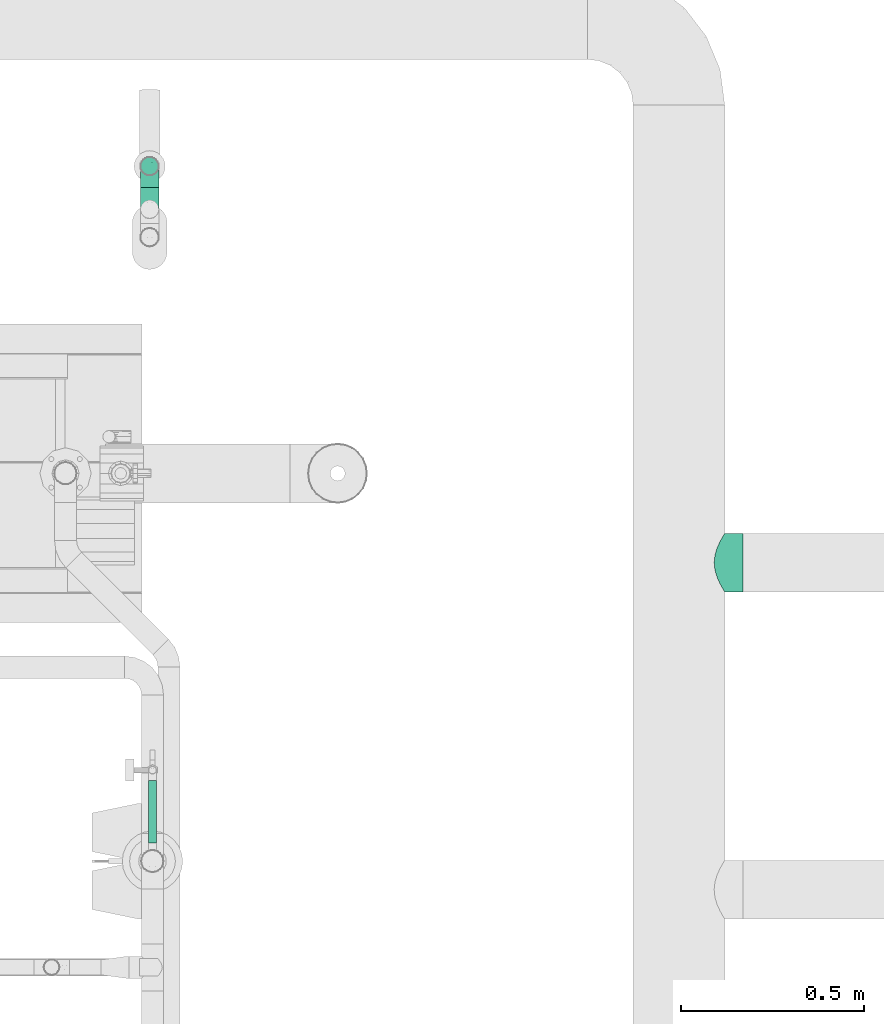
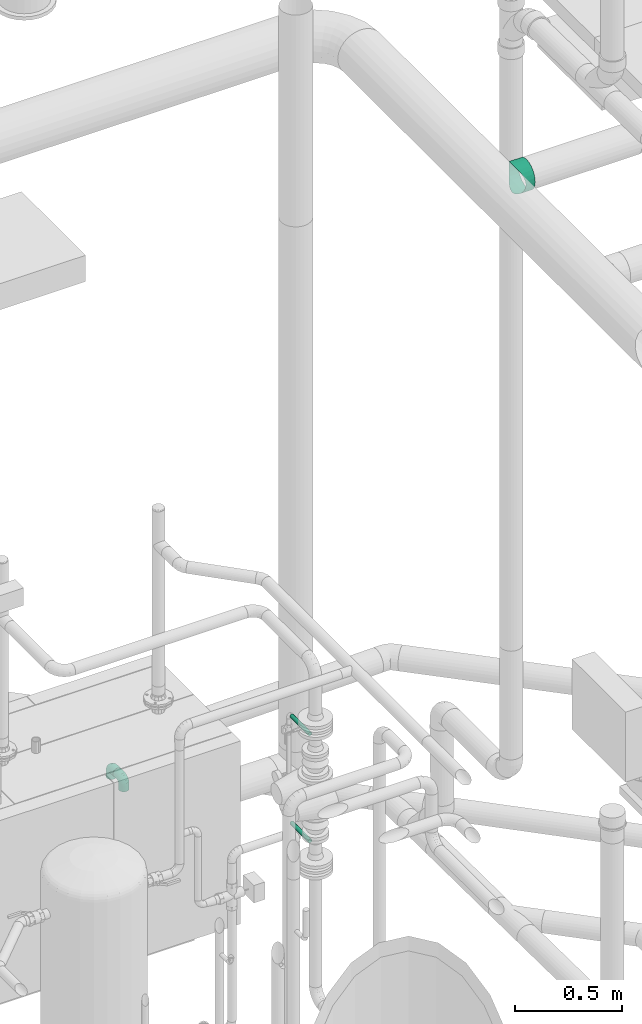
# One storey, part 119 of 374: 3 flow segments, 2 flow fittings.
"""IFC2X3 building model written with IfcOpenShell, lengths in metres."""

from ifc_helpers import new_model, si_unit, direction, origin, place, context, subcontext, project, spatial, open_shell, surface_model, source, transform, mapped, element, save


model = new_model("IFC2X3")

# Units and contexts
model_context = context("Model", 3, precision=1e-05, world=origin(), true_north=direction((-0.4480736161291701, 0.8939966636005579)))
body_context = subcontext(model_context, "Body", "Model", "MODEL_VIEW")
ifc_project = project(units=[si_unit("LENGTHUNIT", "METRE"), si_unit("AREAUNIT", "SQUARE_METRE"), si_unit("VOLUMEUNIT", "CUBIC_METRE"), si_unit("PLANEANGLEUNIT", "RADIAN"), si_unit("THERMODYNAMICTEMPERATUREUNIT", "KELVIN"), si_unit("MASSUNIT", "GRAM", prefix="KILO"), si_unit("TIMEUNIT", "SECOND")], contexts=[model_context])

# Site, building, storey
site_placement = place(None, origin())
site = spatial("IfcSite", under=ifc_project, at=site_placement, Name="Site 1", CompositionType="ELEMENT")
building_placement = place(site_placement, origin())
building = spatial("IfcBuilding", under=site, at=building_placement, Name="Undefined", CompositionType="ELEMENT")
storey_placement = place(building_placement, origin())
storey = spatial("IfcBuildingStorey", under=building, at=storey_placement, Name="Rez de chauss\x8ee", CompositionType="ELEMENT", Elevation=0.0)

# Flow segment
shared_shape_1 = source(origin(), body_context, "Body", "SurfaceModel", [
    surface_model("IfcFaceBasedSurfaceModel", [(0.001726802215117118, 0.020884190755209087, 0.0), (0.0, 0.0, 0.0), (0.051726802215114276, 8.8817842e-16, 0.0), (0.051726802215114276, 0.020884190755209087, 0.0), (-0.0048460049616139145, -0.02017257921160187, -0.005405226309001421), (0.051726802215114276, -0.02017257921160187, -0.005405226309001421), (-0.011805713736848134, -0.0382588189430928, -0.015847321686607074), (0.051726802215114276, -0.0382588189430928, -0.015847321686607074), (-0.019229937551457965, -0.05302617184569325, -0.0306146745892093), (0.051726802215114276, -0.05302617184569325, -0.0306146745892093), (-0.025019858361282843, -0.06346826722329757, -0.04870091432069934), (0.051726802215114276, -0.06346826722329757, -0.04870091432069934), (-0.027226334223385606, -0.06887349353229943, -0.06887349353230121), (0.051726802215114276, -0.06887349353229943, -0.06887349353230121), (-0.025019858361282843, -0.06887349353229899, -0.08975768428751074), (0.051726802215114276, -0.06887349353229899, -0.08975768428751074), (-0.019229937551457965, -0.06346826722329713, -0.10993026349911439), (0.051726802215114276, -0.06346826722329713, -0.10993026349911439), (-0.011805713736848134, -0.05302617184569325, -0.12801650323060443), (0.051726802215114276, -0.05302617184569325, -0.12801650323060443), (-0.0048460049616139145, -0.038258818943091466, -0.14278385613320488), (0.051726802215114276, -0.038258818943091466, -0.14278385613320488), (0.0, -0.020172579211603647, -0.15322595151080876), (0.051726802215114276, -0.020172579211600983, -0.15322595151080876), (0.001726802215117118, 2.220446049e-15, -0.15863117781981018), (0.051726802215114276, 2.220446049e-15, -0.15863117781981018), (0.0, 0.020884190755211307, -0.15863117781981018), (0.051726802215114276, 0.020884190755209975, -0.15863117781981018), (-0.0048460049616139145, 0.04105676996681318, -0.15322595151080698), (0.051726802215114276, 0.04105676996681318, -0.15322595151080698), (-0.011805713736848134, 0.05914300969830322, -0.1427838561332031), (0.051726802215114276, 0.05914300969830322, -0.1427838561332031), (-0.019229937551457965, 0.07391036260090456, -0.12801650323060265), (0.051726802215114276, 0.07391036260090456, -0.12801650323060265), (-0.025019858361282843, 0.08435245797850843, -0.10993026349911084), (0.051726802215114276, 0.08435245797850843, -0.10993026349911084), (-0.027226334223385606, 0.08975768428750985, -0.08975768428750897), (0.051726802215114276, 0.08975768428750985, -0.08975768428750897), (-0.025019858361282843, 0.08975768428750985, -0.06887349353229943), (0.051726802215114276, 0.08975768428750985, -0.06887349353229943), (-0.019229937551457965, 0.08435245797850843, -0.048700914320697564), (0.051726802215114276, 0.08435245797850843, -0.048700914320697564), (-0.011805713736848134, 0.07391036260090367, -0.030614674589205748), (0.051726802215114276, 0.07391036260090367, -0.030614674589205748), (-0.0048460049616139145, 0.05914300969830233, -0.01584732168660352), (0.051726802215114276, 0.05914300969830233, -0.01584732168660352), (0.0, 0.04105676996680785, -0.005405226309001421), (0.051726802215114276, 0.04105676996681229, -0.005405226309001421)], [open_shell([[[0, 1, 2, 3]], [[1, 4, 5, 2]], [[4, 6, 7, 5]], [[6, 8, 9, 7]], [[8, 10, 11, 9]], [[10, 12, 13, 11]], [[12, 14, 15, 13]], [[14, 16, 17, 15]], [[16, 18, 19, 17]], [[18, 20, 21, 19]], [[20, 22, 23, 21]], [[22, 24, 25, 23]], [[24, 26, 27, 25]], [[26, 28, 29, 27]], [[28, 30, 31, 29]], [[30, 32, 33, 31]], [[32, 34, 35, 33]], [[34, 36, 37, 35]], [[36, 38, 39, 37]], [[38, 40, 41, 39]], [[40, 42, 43, 41]], [[42, 44, 45, 43]], [[44, 46, 47, 45]], [[46, 0, 3, 47]]])]),
])
flow_segment_1_placement = place(storey_placement, origin())
element("IfcFlowSegment", 1, at=flow_segment_1_placement, inside=storey, Name="Piquage équerre circulaire", ObjectType="Piquage équerre circulaire", context=body_context, shape_type="MappedRepresentation", body=[
    mapped(shared_shape_1, transform((56.559324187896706, 12.735225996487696, 3.779294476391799), x_axis=(1.0, 0.0, 0.0), y_axis=(0.0, -0.1305261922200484, 0.9914448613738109), z_axis=(0.0, -0.9914448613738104, -0.13052619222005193))),
])

# Flow fittings
shared_shape_2 = source(origin(), body_context, "Body", "SurfaceModel", [
    surface_model("IfcFaceBasedSurfaceModel", [(0.0, 0.006526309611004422, 0.0), (0.0, 0.0, 0.0), (0.03350000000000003, 0.0, 7.105427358e-15), (0.03350000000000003, 0.006526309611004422, 0.0), (0.0, -0.006303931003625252, -0.0016891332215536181), (0.03350000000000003, -0.006303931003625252, -0.0016891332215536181), (0.0, -0.011955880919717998, -0.004952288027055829), (0.03350000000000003, -0.011955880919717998, -0.004952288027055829), (0.0, -0.016570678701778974, -0.009567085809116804), (0.03350000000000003, -0.016570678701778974, -0.009567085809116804), (0.0, -0.019833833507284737, -0.015219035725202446), (0.03350000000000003, -0.019833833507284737, -0.015219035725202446), (0.0, -0.021522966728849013, -0.02152296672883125), (0.03350000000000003, -0.021522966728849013, -0.02152296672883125), (0.0, -0.021522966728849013, -0.028049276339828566), (0.03350000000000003, -0.021522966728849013, -0.028049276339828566), (0.0, -0.019833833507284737, -0.034353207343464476), (0.03350000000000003, -0.019833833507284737, -0.034353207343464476), (0.0, -0.01657067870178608, -0.04000515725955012), (0.03350000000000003, -0.01657067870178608, -0.04000515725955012), (0.0, -0.011955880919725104, -0.0446199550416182), (0.03350000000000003, -0.011955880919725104, -0.0446199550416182), (0.0, -0.00630393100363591, -0.04788310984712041), (0.03350000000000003, -0.00630393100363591, -0.04788310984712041), (0.0, -1.0658141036e-14, -0.04957224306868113), (0.03350000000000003, -1.0658141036e-14, -0.04957224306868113), (0.0, 0.006526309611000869, -0.04957224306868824), (0.03350000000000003, 0.0065263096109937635, -0.04957224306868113), (0.0, 0.012830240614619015, -0.047883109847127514), (0.03350000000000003, 0.012830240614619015, -0.047883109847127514), (0.0, 0.018482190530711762, -0.0446199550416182), (0.03350000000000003, 0.018482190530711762, -0.0446199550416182), (0.0, 0.023096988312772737, -0.04000515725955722), (0.03350000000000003, 0.023096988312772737, -0.04000515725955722), (0.0, 0.026360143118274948, -0.03435320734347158), (0.03350000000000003, 0.026360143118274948, -0.03435320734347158), (0.0, 0.028049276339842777, -0.028049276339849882), (0.03350000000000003, 0.028049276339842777, -0.028049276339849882), (0.0, 0.028049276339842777, -0.02152296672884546), (0.03350000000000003, 0.028049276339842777, -0.02152296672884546), (0.0, 0.026360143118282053, -0.015219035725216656), (0.03350000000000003, 0.026360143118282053, -0.015219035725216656), (0.0, 0.023096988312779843, -0.00956708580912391), (0.03350000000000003, 0.023096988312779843, -0.00956708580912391), (0.0, 0.018482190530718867, -0.004952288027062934), (0.03350000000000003, 0.018482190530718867, -0.004952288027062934), (0.0, 0.01283024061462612, -0.0016891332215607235), (0.03350000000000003, 0.01283024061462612, -0.0016891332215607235), (0.046220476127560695, -0.019862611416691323, -0.02826786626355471), (0.046440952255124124, -0.019833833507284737, -0.02174534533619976), (0.05807407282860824, -0.014994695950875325, -0.028908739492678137), (0.058499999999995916, -0.014881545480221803, -0.02239732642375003), (0.06825298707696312, -0.007250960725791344, -0.029928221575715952), (0.0688553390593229, -0.007003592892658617, -0.023434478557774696), (0.07606354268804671, 0.0028408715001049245, -0.03125683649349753), (0.07680127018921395, 0.0032631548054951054, -0.024786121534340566), (0.08097346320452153, 0.014593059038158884, -0.032804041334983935), (0.08179629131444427, 0.015219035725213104, -0.026360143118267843), (0.08264814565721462, 0.02720470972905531, -0.034464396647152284), (0.08349999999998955, 0.028049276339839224, -0.028049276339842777), (0.04557407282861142, -0.01825785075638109, -0.03456068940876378), (0.056825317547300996, -0.013637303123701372, -0.03516899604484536), (0.06648698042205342, -0.006287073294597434, -0.036136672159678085), (0.07390063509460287, 0.003291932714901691, -0.03739777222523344), (0.07856105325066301, 0.014446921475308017, -0.0388663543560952), (0.0801506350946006, 0.02641769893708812, -0.04044233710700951), (0.04454579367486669, -0.015128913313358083, -0.040194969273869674), (0.05483883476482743, -0.010901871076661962, -0.040751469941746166), (0.06367766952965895, -0.004177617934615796, -0.04163673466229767), (0.07045994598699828, 0.004585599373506, -0.042790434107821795), (0.07472346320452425, 0.014790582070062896, -0.04413394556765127), (0.07617766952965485, 0.02574187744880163, -0.04557571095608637), (0.04320571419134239, -0.010689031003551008, -0.04478673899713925), (0.052249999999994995, -0.006974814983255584, -0.04527572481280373), (0.06001650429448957, -0.0010663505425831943, -0.0460535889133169), (0.0659759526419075, 0.0066337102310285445, -0.04706732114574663), (0.0697222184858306, 0.015600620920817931, -0.04824783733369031), (0.07099999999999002, 0.025223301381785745, -0.04951468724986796), (0.041645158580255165, -0.005240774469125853, -0.0480230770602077), (0.04923523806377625, -0.0021237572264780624, -0.04843344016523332), (0.05575298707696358, 0.0028347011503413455, -0.04908623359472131), (0.06075423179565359, 0.009296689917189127, -0.04993697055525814), (0.06389814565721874, 0.016821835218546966, -0.05092767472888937), (0.06497047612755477, 0.024897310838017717, -0.05199083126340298), (0.03997047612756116, 0.0008445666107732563, -0.049683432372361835), (0.04599999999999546, 0.0033207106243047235, -0.05000942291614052), (0.05117766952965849, 0.007259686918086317, -0.0505279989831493), (0.055150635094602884, 0.012393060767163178, -0.05120382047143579), (0.057648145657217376, 0.0183710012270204, -0.05199083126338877), (0.058499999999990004, 0.02478612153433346, -0.05283539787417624), (0.038295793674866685, 0.007152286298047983, -0.04965465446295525), (0.04276476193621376, 0.008987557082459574, -0.049896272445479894), (0.04660235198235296, 0.0119070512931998, -0.05028063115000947), (0.04954703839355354, 0.01571181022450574, -0.050781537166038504), (0.051398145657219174, 0.0201425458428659, -0.051364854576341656), (0.05202952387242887, 0.02489731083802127, -0.051990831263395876), (0.03673523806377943, 0.013252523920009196, -0.04793870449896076), (0.039749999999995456, 0.014490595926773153, -0.048101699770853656), (0.04233883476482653, 0.01646008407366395, -0.04836098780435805), (0.04432531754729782, 0.01902677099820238, -0.04869889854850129), (0.04557407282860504, 0.02201574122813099, -0.049092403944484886), (0.04599999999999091, 0.025223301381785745, -0.04951468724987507), (0.03539515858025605, 0.01872955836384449, -0.04465252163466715), (0.03716116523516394, 0.019454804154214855, -0.04474800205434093), (0.03867766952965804, 0.020608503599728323, -0.044899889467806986), (0.039841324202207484, 0.02211203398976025, -0.045097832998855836), (0.04057282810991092, 0.02386293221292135, -0.04532834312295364), (0.04082233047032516, 0.02574187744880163, -0.04557571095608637), (0.03436687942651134, 0.023210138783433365, -0.040020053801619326), (0.03517468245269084, 0.02354187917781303, -0.04006372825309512), (0.03586835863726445, 0.02406960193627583, -0.04013320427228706), (0.03640063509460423, 0.024757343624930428, -0.04022374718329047), (0.03673523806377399, 0.0255582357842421, -0.04032918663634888), (0.03684936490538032, 0.02641769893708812, -0.04044233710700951), (0.03372047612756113, 0.026388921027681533, -0.03435699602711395), (0.033925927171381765, 0.026473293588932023, -0.034368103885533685), (0.034102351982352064, 0.026607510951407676, -0.03438577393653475), (0.03423772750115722, 0.02678242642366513, -0.03440880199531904), (0.034322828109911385, 0.026986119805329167, -0.0344356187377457), (0.03435185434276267, 0.02720470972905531, -0.034464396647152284), (0.03372047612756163, 0.028078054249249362, -0.02152675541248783), (0.03392592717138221, 0.028162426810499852, -0.021537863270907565), (0.03410235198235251, 0.028296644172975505, -0.02155553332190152), (0.034237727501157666, 0.028471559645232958, -0.021578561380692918), (0.03432282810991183, 0.028675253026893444, -0.02160537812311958), (0.03435185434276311, 0.028893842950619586, -0.021634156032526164), (0.0343668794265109, 0.02647329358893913, -0.015233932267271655), (0.035174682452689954, 0.026805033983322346, -0.015277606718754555), (0.03586835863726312, 0.027332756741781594, -0.015347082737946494), (0.036400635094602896, 0.02802049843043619, -0.015437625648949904), (0.03673523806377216, 0.02882139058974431, -0.015543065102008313), (0.036849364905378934, 0.02968085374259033, -0.01565621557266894), (0.0353951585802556, 0.023344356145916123, -0.009599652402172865), (0.03716116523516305, 0.02406960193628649, -0.009695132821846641), (0.03867766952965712, 0.025223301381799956, -0.009847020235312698), (0.039841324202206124, 0.02672683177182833, -0.010044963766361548), (0.04057282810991, 0.02847772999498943, -0.010275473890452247), (0.04082233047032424, 0.030356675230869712, -0.01052284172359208), (0.036735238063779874, 0.0189044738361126, -0.005007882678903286), (0.039749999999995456, 0.020142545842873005, -0.005170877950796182), (0.042338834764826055, 0.022112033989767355, -0.005430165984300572), (0.044325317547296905, 0.024678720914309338, -0.005768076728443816), (0.045574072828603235, 0.02766769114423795, -0.006161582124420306), (0.04599999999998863, 0.030875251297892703, -0.0065838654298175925), (0.038295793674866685, 0.01345621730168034, -0.0017715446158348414), (0.0427647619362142, 0.015291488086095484, -0.002013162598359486), (0.04660235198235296, 0.018210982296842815, -0.0023975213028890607), (0.04954703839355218, 0.022015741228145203, -0.0028984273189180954), (0.051398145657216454, 0.02644647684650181, -0.003481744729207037), (0.052029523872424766, 0.03120124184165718, -0.004107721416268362), (0.03997047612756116, 0.007370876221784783, -0.00011118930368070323), (0.04599999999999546, 0.009847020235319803, -0.0004371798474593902), (0.05117766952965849, 0.013785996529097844, -0.0009557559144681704), (0.05515063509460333, 0.018919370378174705, -0.0016315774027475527), (0.05764814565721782, 0.02489731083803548, -0.002418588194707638), (0.058499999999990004, 0.03131243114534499, -0.0032631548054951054), (0.041645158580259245, 0.0010631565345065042, -0.00013996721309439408), (0.04923523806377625, 0.004180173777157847, -0.0005503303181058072), (0.055752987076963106, 0.009138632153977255, -0.0012031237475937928), (0.06075423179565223, 0.01560062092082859, -0.0020538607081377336), (0.06389814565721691, 0.023125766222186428, -0.0030445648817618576), (0.06497047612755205, 0.031201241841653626, -0.004107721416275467), (0.04320571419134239, -0.005037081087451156, -0.0018559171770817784), (0.052249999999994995, -0.0013228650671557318, -0.002344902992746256), (0.060016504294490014, 0.0045855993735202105, -0.0031227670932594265), (0.0659759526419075, 0.012285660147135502, -0.004136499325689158), (0.06972221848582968, 0.021252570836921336, -0.005317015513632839), (0.07099999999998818, 0.03087525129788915, -0.006583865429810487), (0.04454579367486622, -0.01051411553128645, -0.0051421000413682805), (0.05483883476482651, -0.006287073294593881, -0.005698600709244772), (0.06367766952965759, 0.0004371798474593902, -0.006583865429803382), (0.07045994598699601, 0.009200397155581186, -0.007737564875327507), (0.07472346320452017, 0.019405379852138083, -0.009081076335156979), (0.07617766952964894, 0.030356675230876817, -0.01052284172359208), (0.04557407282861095, -0.014994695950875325, -0.009774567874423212), (0.05682531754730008, -0.010374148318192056, -0.010382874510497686), (0.06648698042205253, -0.003023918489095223, -0.011350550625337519), (0.07390063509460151, 0.006555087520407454, -0.012611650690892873), (0.07856105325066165, 0.01771007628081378, -0.014080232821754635), (0.08015063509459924, 0.02968085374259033, -0.01565621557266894), (0.04622047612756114, -0.018173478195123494, -0.015437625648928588), (0.05807407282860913, -0.013305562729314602, -0.016078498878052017), (0.06825298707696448, -0.005561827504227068, -0.01709798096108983), (0.07606354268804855, 0.0045300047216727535, -0.01842659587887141), (0.0809734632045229, 0.016282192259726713, -0.019973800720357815), (0.08264814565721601, 0.02889384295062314, -0.021634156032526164), (0.08264814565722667, 0.06041811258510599, -0.03883702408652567), (0.08350000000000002, 0.06126267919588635, -0.03242190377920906), (0.08015063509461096, 0.0596311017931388, -0.044814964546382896), (0.0761776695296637, 0.05895528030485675, -0.04994833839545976), (0.07100000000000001, 0.058436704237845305, -0.053887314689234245), (0.06497047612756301, 0.058110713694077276, -0.05636345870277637), (0.058499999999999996, 0.05799952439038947, -0.057208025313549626), (0.05202952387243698, 0.058110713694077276, -0.05636345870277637), (0.045999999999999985, 0.058436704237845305, -0.053887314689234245), (0.04082233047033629, 0.05895528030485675, -0.04994833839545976), (0.03684936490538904, 0.0596311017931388, -0.044814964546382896), (0.034351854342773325, 0.06041811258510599, -0.03883702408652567), (0.03350000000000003, 0.06126267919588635, -0.03242190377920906), (0.034351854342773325, 0.06210724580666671, -0.026006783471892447), (0.03684936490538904, 0.0628942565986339, -0.020028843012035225), (0.04082233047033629, 0.06357007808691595, -0.014895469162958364), (0.045999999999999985, 0.0640886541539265, -0.010956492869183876), (0.05202952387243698, 0.06441464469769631, -0.00848034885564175), (0.058499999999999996, 0.06452583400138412, -0.007635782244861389), (0.06497047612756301, 0.06441464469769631, -0.00848034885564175), (0.07100000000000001, 0.0640886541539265, -0.010956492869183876), (0.07617766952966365, 0.06357007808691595, -0.014895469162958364), (0.08015063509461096, 0.0628942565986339, -0.020028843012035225), (0.08264814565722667, 0.06210724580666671, -0.026006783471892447)], [open_shell([[[0, 1, 2, 3]], [[1, 4, 5, 2]], [[4, 6, 7, 5]], [[6, 8, 9, 7]], [[8, 10, 11, 9]], [[10, 12, 13, 11]], [[12, 14, 15, 13]], [[14, 16, 17, 15]], [[16, 18, 19, 17]], [[18, 20, 21, 19]], [[20, 22, 23, 21]], [[22, 24, 25, 23]], [[24, 26, 27, 25]], [[26, 28, 29, 27]], [[28, 30, 31, 29]], [[30, 32, 33, 31]], [[32, 34, 35, 33]], [[34, 36, 37, 35]], [[36, 38, 39, 37]], [[38, 40, 41, 39]], [[40, 42, 43, 41]], [[42, 44, 45, 43]], [[44, 46, 47, 45]], [[46, 0, 3, 47]], [[13, 15, 48, 49]], [[49, 48, 50, 51]], [[51, 50, 52, 53]], [[53, 52, 54, 55]], [[55, 54, 56, 57]], [[57, 56, 58, 59]], [[15, 17, 60, 48]], [[48, 60, 61, 50]], [[50, 61, 62, 52]], [[52, 62, 63, 54]], [[54, 63, 64, 56]], [[56, 64, 65, 58]], [[17, 19, 66, 60]], [[60, 66, 67, 61]], [[61, 67, 68, 62]], [[62, 68, 69, 63]], [[63, 69, 70, 64]], [[64, 70, 71, 65]], [[19, 21, 72, 66]], [[66, 72, 73, 67]], [[67, 73, 74, 68]], [[68, 74, 75, 69]], [[69, 75, 76, 70]], [[70, 76, 77, 71]], [[21, 23, 78, 72]], [[72, 78, 79, 73]], [[73, 79, 80, 74]], [[74, 80, 81, 75]], [[75, 81, 82, 76]], [[76, 82, 83, 77]], [[23, 25, 84, 78]], [[78, 84, 85, 79]], [[79, 85, 86, 80]], [[80, 86, 87, 81]], [[81, 87, 88, 82]], [[82, 88, 89, 83]], [[25, 27, 90, 84]], [[84, 90, 91, 85]], [[85, 91, 92, 86]], [[86, 92, 93, 87]], [[87, 93, 94, 88]], [[88, 94, 95, 89]], [[27, 29, 96, 90]], [[90, 96, 97, 91]], [[91, 97, 98, 92]], [[92, 98, 99, 93]], [[93, 99, 100, 94]], [[94, 100, 101, 95]], [[29, 31, 102, 96]], [[96, 102, 103, 97]], [[97, 103, 104, 98]], [[98, 104, 105, 99]], [[99, 105, 106, 100]], [[100, 106, 107, 101]], [[31, 33, 108, 102]], [[102, 108, 109, 103]], [[103, 109, 110, 104]], [[104, 110, 111, 105]], [[105, 111, 112, 106]], [[106, 112, 113, 107]], [[33, 35, 114, 108]], [[108, 114, 115, 109]], [[109, 115, 116, 110]], [[110, 116, 117, 111]], [[111, 117, 118, 112]], [[112, 118, 119, 113]], [[35, 37, 114]], [[114, 37, 115]], [[115, 37, 116]], [[116, 37, 117]], [[117, 37, 118]], [[118, 37, 119]], [[37, 39, 120]], [[37, 120, 121]], [[37, 121, 122]], [[37, 122, 123]], [[37, 123, 124]], [[37, 124, 125]], [[39, 41, 126, 120]], [[120, 126, 127, 121]], [[121, 127, 128, 122]], [[122, 128, 129, 123]], [[123, 129, 130, 124]], [[124, 130, 131, 125]], [[41, 43, 132, 126]], [[126, 132, 133, 127]], [[127, 133, 134, 128]], [[128, 134, 135, 129]], [[129, 135, 136, 130]], [[130, 136, 137, 131]], [[43, 45, 138, 132]], [[132, 138, 139, 133]], [[133, 139, 140, 134]], [[134, 140, 141, 135]], [[135, 141, 142, 136]], [[136, 142, 143, 137]], [[45, 47, 144, 138]], [[138, 144, 145, 139]], [[139, 145, 146, 140]], [[140, 146, 147, 141]], [[141, 147, 148, 142]], [[142, 148, 149, 143]], [[47, 3, 150, 144]], [[144, 150, 151, 145]], [[145, 151, 152, 146]], [[146, 152, 153, 147]], [[147, 153, 154, 148]], [[148, 154, 155, 149]], [[3, 2, 156, 150]], [[150, 156, 157, 151]], [[151, 157, 158, 152]], [[152, 158, 159, 153]], [[153, 159, 160, 154]], [[154, 160, 161, 155]], [[2, 5, 162, 156]], [[156, 162, 163, 157]], [[157, 163, 164, 158]], [[158, 164, 165, 159]], [[159, 165, 166, 160]], [[160, 166, 167, 161]], [[5, 7, 168, 162]], [[162, 168, 169, 163]], [[163, 169, 170, 164]], [[164, 170, 171, 165]], [[165, 171, 172, 166]], [[166, 172, 173, 167]], [[7, 9, 174, 168]], [[168, 174, 175, 169]], [[169, 175, 176, 170]], [[170, 176, 177, 171]], [[171, 177, 178, 172]], [[172, 178, 179, 173]], [[9, 11, 180, 174]], [[174, 180, 181, 175]], [[175, 181, 182, 176]], [[176, 182, 183, 177]], [[177, 183, 184, 178]], [[178, 184, 185, 179]], [[11, 13, 49, 180]], [[180, 49, 51, 181]], [[181, 51, 53, 182]], [[182, 53, 55, 183]], [[183, 55, 57, 184]], [[184, 57, 59, 185]], [[59, 58, 186, 187]], [[58, 65, 188, 186]], [[65, 71, 189, 188]], [[71, 77, 190, 189]], [[77, 83, 191, 190]], [[83, 89, 192, 191]], [[89, 95, 193, 192]], [[95, 101, 194, 193]], [[101, 107, 195, 194]], [[107, 113, 196, 195]], [[113, 119, 197, 196]], [[119, 37, 198, 197]], [[37, 125, 199, 198]], [[125, 131, 200, 199]], [[131, 137, 201, 200]], [[137, 143, 202, 201]], [[143, 149, 203, 202]], [[149, 155, 204, 203]], [[155, 161, 205, 204]], [[161, 167, 206, 205]], [[167, 173, 207, 206]], [[173, 179, 208, 207]], [[179, 185, 209, 208]], [[185, 59, 187, 209]]])]),
])
flow_fitting_1_placement = place(storey_placement, origin())
element("IfcFlowFitting", 2, at=flow_fitting_1_placement, inside=storey, Name="PE-HD équerre de raccordement 88.5°", ObjectType="PE-HD équerre de raccordement 88.5°", context=body_context, shape_type="MappedRepresentation", body=[
    mapped(shared_shape_2, transform((54.96751006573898, 13.770675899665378, 0.26859468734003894), x_axis=(0.0, 0.0, 1.0), y_axis=(-0.13052619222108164, 0.9914448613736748, 0.0), z_axis=(-0.9914448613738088, -0.13052619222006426, 0.0))),
])
flow_fitting_2_placement = place(storey_placement, origin())
element("IfcFlowFitting", 3, at=flow_fitting_2_placement, inside=storey, Name="PE-HD équerre de raccordement 88.5°", ObjectType="PE-HD équerre de raccordement 88.5°", context=body_context, shape_type="MappedRepresentation", body=[
    mapped(shared_shape_2, transform((54.967510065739, 13.835646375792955, 0.33356516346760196), x_axis=(0.0, 1.0, 0.0), y_axis=(-0.13052619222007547, 0.0, -0.9914448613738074), z_axis=(-0.9914448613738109, 0.0, 0.1305261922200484))),
])

# Flow segments
shared_shape_3 = source(origin(), body_context, "Body", "SurfaceModel", [
    surface_model("IfcFaceBasedSurfaceModel", [(1.776356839e-15, 0.0027802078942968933, 0.0), (0.0, 0.0, 0.0), (0.1706217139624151, 0.0, 0.0), (0.1706217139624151, 0.002780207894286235, 7.105427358e-15), (0.0, -0.002685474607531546, -0.0007195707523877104), (0.1706217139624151, -0.002685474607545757, -0.0007195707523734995), (1.776356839e-15, -0.00509320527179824, -0.002109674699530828), (0.1706217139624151, -0.005093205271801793, -0.002109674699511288), (1.776356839e-15, -0.007059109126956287, -0.004075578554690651), (0.1706217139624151, -0.0070591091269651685, -0.0040755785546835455), (0.0, -0.00844921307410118, -0.00648330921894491), (0.1706217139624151, -0.008449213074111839, -0.006483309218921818), (0.0, -0.009168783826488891, -0.009168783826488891), (0.1706217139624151, -0.009168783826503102, -0.00916878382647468), (0.0, -0.009168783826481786, -0.011948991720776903), (0.1706217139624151, -0.009168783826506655, -0.011948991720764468), (1.776356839e-15, -0.00844921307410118, -0.014634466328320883), (0.1706217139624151, -0.008449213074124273, -0.014634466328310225), (1.776356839e-15, -0.007059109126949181, -0.017042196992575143), (0.1706217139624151, -0.007059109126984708, -0.017042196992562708), (0.0, -0.005093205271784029, -0.019008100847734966), (0.1706217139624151, -0.005093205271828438, -0.01900810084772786), (0.0, -0.0026854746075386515, -0.020398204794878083), (0.1706217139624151, -0.002685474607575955, -0.020398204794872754), (1.776356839e-15, 7.105427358e-15, -0.021117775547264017), (0.1706217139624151, -3.1974423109e-14, -0.021117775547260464), (1.776356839e-15, 0.002780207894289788, -0.02111777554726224), (0.1706217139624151, 0.0027802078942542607, -0.021117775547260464), (1.776356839e-15, 0.005465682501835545, -0.020398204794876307), (0.1706217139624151, 0.005465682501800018, -0.02039820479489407), (1.776356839e-15, 0.007873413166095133, -0.01900810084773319), (0.1706217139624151, 0.007873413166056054, -0.019008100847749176), (0.0, 0.00983931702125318, -0.017042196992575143), (0.1706217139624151, 0.00983931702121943, -0.01704219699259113), (1.776356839e-15, 0.011229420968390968, -0.01463446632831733), (0.1706217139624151, 0.0112294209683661, -0.014634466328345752), (1.776356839e-15, 0.011948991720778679, -0.011948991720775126), (0.1706217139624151, 0.011948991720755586, -0.011948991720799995), (1.776356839e-15, 0.011948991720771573, -0.009168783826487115), (0.1706217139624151, 0.011948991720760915, -0.009168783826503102), (0.0, 0.011229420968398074, -0.006483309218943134), (0.1706217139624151, 0.011229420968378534, -0.00648330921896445), (1.776356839e-15, 0.009839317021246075, -0.0040755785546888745), (0.1706217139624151, 0.009839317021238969, -0.004075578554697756), (1.776356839e-15, 0.007873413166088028, -0.0021096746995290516), (0.1706217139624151, 0.007873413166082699, -0.0021096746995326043), (1.776356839e-15, 0.005465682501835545, -0.000719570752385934), (0.1706217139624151, 0.005465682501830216, -0.0007195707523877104)], [open_shell([[[0, 1, 2, 3]], [[1, 4, 5, 2]], [[4, 6, 7, 5]], [[6, 8, 9, 7]], [[8, 10, 11, 9]], [[10, 12, 13, 11]], [[12, 14, 15, 13]], [[14, 16, 17, 15]], [[16, 18, 19, 17]], [[18, 20, 21, 19]], [[20, 22, 23, 21]], [[22, 24, 25, 23]], [[24, 26, 27, 25]], [[26, 28, 29, 27]], [[28, 30, 31, 29]], [[30, 32, 33, 31]], [[32, 34, 35, 33]], [[34, 36, 37, 35]], [[36, 38, 39, 37]], [[38, 40, 41, 39]], [[40, 42, 43, 41]], [[42, 44, 45, 43]], [[44, 46, 47, 45]], [[46, 0, 3, 47]]])]),
])
flow_segment_2_placement = place(storey_placement, origin())
element("IfcFlowSegment", 4, at=flow_segment_2_placement, inside=storey, Name="Tube acier d'après DIN 2448", ObjectType="Tube acier d'après DIN 2448", context=body_context, shape_type="MappedRepresentation", body=[
    mapped(shared_shape_3, transform((55.009616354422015, 12.0478264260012, 1.6260657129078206), x_axis=(0.0, 1.0, 0.0), y_axis=(0.1305261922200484, 0.0, 0.9914448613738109), z_axis=(0.9914448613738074, 0.0, -0.13052619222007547))),
])
flow_segment_3_placement = place(storey_placement, origin())
element("IfcFlowSegment", 5, at=flow_segment_3_placement, inside=storey, Name="Tube acier d'après DIN 2448", ObjectType="Tube acier d'après DIN 2448", context=body_context, shape_type="MappedRepresentation", body=[
    mapped(shared_shape_3, transform((55.009616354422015, 12.218448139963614, 1.0206350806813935), x_axis=(0.0, -1.0, 0.0), y_axis=(0.130526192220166, 0.0, -0.9914448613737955), z_axis=(0.9914448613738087, 0.0, 0.13052619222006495))),
])

save(model, "model.ifc")
